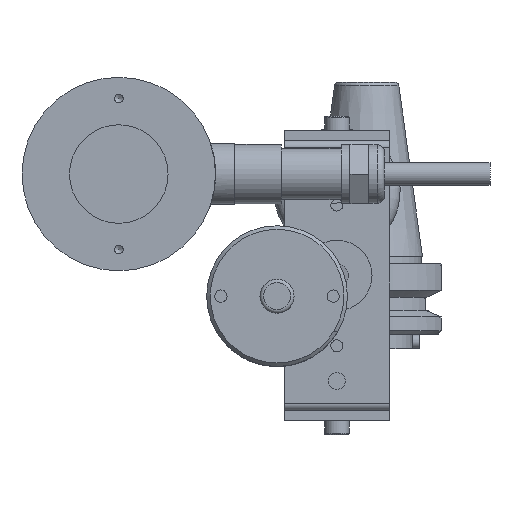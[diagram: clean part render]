
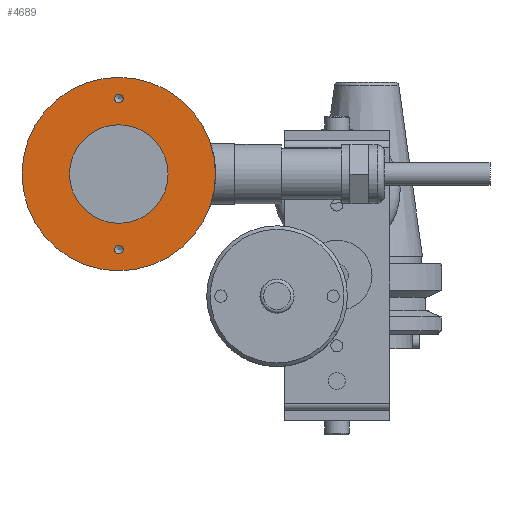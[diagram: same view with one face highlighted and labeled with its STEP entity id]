
A CAD part, front view. The second image highlights one B-rep face of the part: STEP entity #4689.
In plain terms, the highlighted planar face has unit normal (0, -1, 0).
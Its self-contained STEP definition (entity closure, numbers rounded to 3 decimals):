
#228=FACE_BOUND('',#795,.T.);
#229=FACE_BOUND('',#796,.T.);
#230=FACE_BOUND('',#797,.T.);
#398=PLANE('',#5214);
#540=FACE_OUTER_BOUND('',#794,.T.);
#794=EDGE_LOOP('',(#3315,#3316));
#795=EDGE_LOOP('',(#3317,#3318));
#796=EDGE_LOOP('',(#3319,#3320));
#797=EDGE_LOOP('',(#3321,#3322));
#1658=CIRCLE('',#5186,1.23);
#1659=CIRCLE('',#5187,1.23);
#1662=CIRCLE('',#5192,1.23);
#1663=CIRCLE('',#5193,1.23);
#1664=CIRCLE('',#5195,14.);
#1665=CIRCLE('',#5196,14.);
#1674=CIRCLE('',#5211,27.5);
#1675=CIRCLE('',#5212,27.5);
#1986=VERTEX_POINT('',#7247);
#1987=VERTEX_POINT('',#7248);
#1991=VERTEX_POINT('',#7260);
#1992=VERTEX_POINT('',#7261);
#1993=VERTEX_POINT('',#7266);
#1994=VERTEX_POINT('',#7267);
#2006=VERTEX_POINT('',#7337);
#2007=VERTEX_POINT('',#7339);
#2511=EDGE_CURVE('',#1986,#1987,#1658,.T.);
#2512=EDGE_CURVE('',#1987,#1986,#1659,.T.);
#2517=EDGE_CURVE('',#1991,#1992,#1662,.T.);
#2518=EDGE_CURVE('',#1992,#1991,#1663,.T.);
#2520=EDGE_CURVE('',#1993,#1994,#1664,.T.);
#2521=EDGE_CURVE('',#1994,#1993,#1665,.T.);
#2538=EDGE_CURVE('',#2006,#2007,#1674,.T.);
#2539=EDGE_CURVE('',#2007,#2006,#1675,.T.);
#3315=ORIENTED_EDGE('',*,*,#2539,.F.);
#3316=ORIENTED_EDGE('',*,*,#2538,.F.);
#3317=ORIENTED_EDGE('',*,*,#2511,.T.);
#3318=ORIENTED_EDGE('',*,*,#2512,.T.);
#3319=ORIENTED_EDGE('',*,*,#2517,.T.);
#3320=ORIENTED_EDGE('',*,*,#2518,.T.);
#3321=ORIENTED_EDGE('',*,*,#2520,.T.);
#3322=ORIENTED_EDGE('',*,*,#2521,.T.);
#4689=ADVANCED_FACE('',(#540,#228,#229,#230),#398,.F.);
#5186=AXIS2_PLACEMENT_3D('',#7249,#5832,#5833);
#5187=AXIS2_PLACEMENT_3D('',#7250,#5834,#5835);
#5192=AXIS2_PLACEMENT_3D('',#7262,#5846,#5847);
#5193=AXIS2_PLACEMENT_3D('',#7263,#5848,#5849);
#5195=AXIS2_PLACEMENT_3D('',#7268,#5853,#5854);
#5196=AXIS2_PLACEMENT_3D('',#7269,#5855,#5856);
#5211=AXIS2_PLACEMENT_3D('',#7340,#5890,#5891);
#5212=AXIS2_PLACEMENT_3D('',#7341,#5892,#5893);
#5214=AXIS2_PLACEMENT_3D('',#7343,#5896,#5897);
#5832=DIRECTION('center_axis',(0.,1.,0.));
#5833=DIRECTION('ref_axis',(-1.,0.,0.));
#5834=DIRECTION('center_axis',(0.,1.,0.));
#5835=DIRECTION('ref_axis',(-1.,0.,0.));
#5846=DIRECTION('center_axis',(0.,1.,0.));
#5847=DIRECTION('ref_axis',(1.,0.,0.));
#5848=DIRECTION('center_axis',(0.,1.,0.));
#5849=DIRECTION('ref_axis',(1.,0.,0.));
#5853=DIRECTION('center_axis',(0.,1.,0.));
#5854=DIRECTION('ref_axis',(1.,0.,0.));
#5855=DIRECTION('center_axis',(0.,1.,0.));
#5856=DIRECTION('ref_axis',(1.,0.,0.));
#5890=DIRECTION('center_axis',(0.,1.,0.));
#5891=DIRECTION('ref_axis',(-1.,0.,0.));
#5892=DIRECTION('center_axis',(0.,1.,0.));
#5893=DIRECTION('ref_axis',(-1.,0.,0.));
#5896=DIRECTION('center_axis',(0.,1.,0.));
#5897=DIRECTION('ref_axis',(0.,0.,1.));
#7247=CARTESIAN_POINT('',(-1.23,0.,21.45));
#7248=CARTESIAN_POINT('',(1.23,0.,21.45));
#7249=CARTESIAN_POINT('Origin',(0.,0.,21.45));
#7250=CARTESIAN_POINT('Origin',(0.,0.,21.45));
#7260=CARTESIAN_POINT('',(1.23,0.,-21.45));
#7261=CARTESIAN_POINT('',(-1.23,0.,-21.45));
#7262=CARTESIAN_POINT('Origin',(0.,0.,-21.45));
#7263=CARTESIAN_POINT('Origin',(0.,0.,-21.45));
#7266=CARTESIAN_POINT('',(14.,0.,0.));
#7267=CARTESIAN_POINT('',(-14.,0.,0.));
#7268=CARTESIAN_POINT('Origin',(0.,0.,0.));
#7269=CARTESIAN_POINT('Origin',(0.,0.,0.));
#7337=CARTESIAN_POINT('',(27.5,0.,0.));
#7339=CARTESIAN_POINT('',(-27.5,0.,0.));
#7340=CARTESIAN_POINT('Origin',(0.,0.,0.));
#7341=CARTESIAN_POINT('Origin',(0.,0.,0.));
#7343=CARTESIAN_POINT('Origin',(0.,0.,0.));
